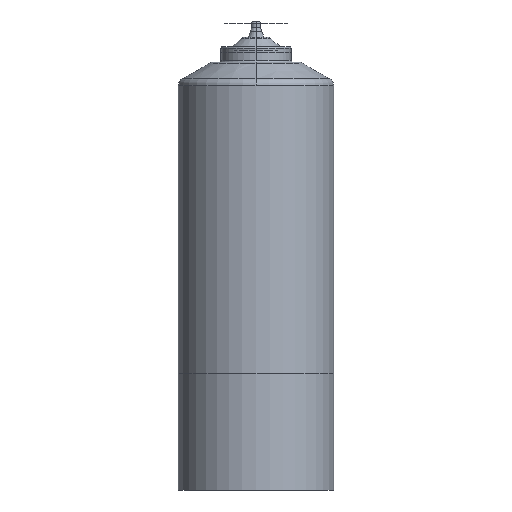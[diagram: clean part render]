
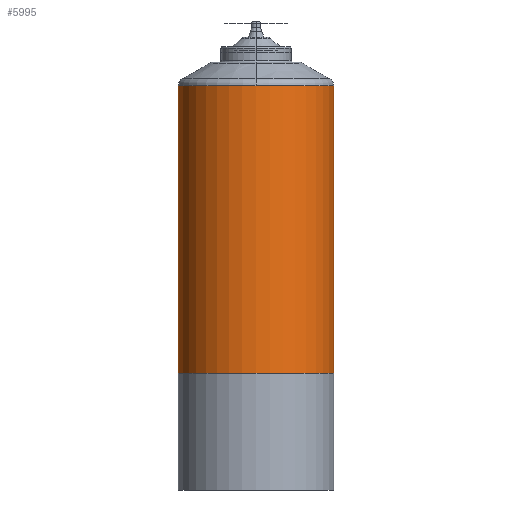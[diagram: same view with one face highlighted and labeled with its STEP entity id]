
A CAD part, left-side view. The second image highlights one B-rep face of the part: STEP entity #5995.
In plain terms, the highlighted cylindrical face has radius 10 mm (diameter 20 mm), a partial arc.
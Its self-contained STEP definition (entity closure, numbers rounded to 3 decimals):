
#815 = EDGE_LOOP ( 'NONE', ( #2444, #5077, #1756, #6427, #9294 ) ) ;
#1113 = VERTEX_POINT ( 'NONE', #2347 ) ;
#1438 = EDGE_CURVE ( 'NONE', #1113, #4813, #3640, .T. ) ;
#1519 = LINE ( 'NONE', #11518, #8603 ) ;
#1645 = DIRECTION ( 'NONE',  ( 0., 0., -1. ) ) ;
#1756 = ORIENTED_EDGE ( 'NONE', *, *, #11317, .T. ) ;
#1867 = AXIS2_PLACEMENT_3D ( 'NONE', #8234, #5432, #6383 ) ;
#2102 = DIRECTION ( 'NONE',  ( 0., 0., -1. ) ) ;
#2347 = CARTESIAN_POINT ( 'NONE',  ( 0., -10., 63.979 ) ) ;
#2410 = DIRECTION ( 'NONE',  ( 0., 0., -1. ) ) ;
#2411 = EDGE_CURVE ( 'NONE', #6690, #2897, #4623, .T. ) ;
#2422 = DIRECTION ( 'NONE',  ( 0., 0., -1. ) ) ;
#2444 = ORIENTED_EDGE ( 'NONE', *, *, #1438, .T. ) ;
#2498 = DIRECTION ( 'NONE',  ( 0., 0., -1. ) ) ;
#2562 = CARTESIAN_POINT ( 'NONE',  ( 0., 0., 63.979 ) ) ;
#2897 = VERTEX_POINT ( 'NONE', #3733 ) ;
#3031 = FACE_OUTER_BOUND ( 'NONE', #815, .T. ) ;
#3365 = AXIS2_PLACEMENT_3D ( 'NONE', #2562, #2410, #8896 ) ;
#3640 = CIRCLE ( 'NONE', #8444, 10. ) ;
#3733 = CARTESIAN_POINT ( 'NONE',  ( 0., 10., 27. ) ) ;
#3931 = CARTESIAN_POINT ( 'NONE',  ( 0., 0., 27. ) ) ;
#4387 = DIRECTION ( 'NONE',  ( -1., 0., 0. ) ) ;
#4623 = CIRCLE ( 'NONE', #8755, 10. ) ;
#4813 = VERTEX_POINT ( 'NONE', #5973 ) ;
#5077 = ORIENTED_EDGE ( 'NONE', *, *, #8633, .T. ) ;
#5085 = CIRCLE ( 'NONE', #3365, 10. ) ;
#5432 = DIRECTION ( 'NONE',  ( 0., 0., -1. ) ) ;
#5832 = CYLINDRICAL_SURFACE ( 'NONE', #1867, 10. ) ;
#5867 = CARTESIAN_POINT ( 'NONE',  ( 0., -10., 27. ) ) ;
#5973 = CARTESIAN_POINT ( 'NONE',  ( -10., 0., 63.979 ) ) ;
#5995 = ADVANCED_FACE ( 'NONE', ( #3031 ), #5832, .T. ) ;
#6379 = EDGE_CURVE ( 'NONE', #1113, #6690, #7405, .T. ) ;
#6383 = DIRECTION ( 'NONE',  ( 0., -1., 0. ) ) ;
#6427 = ORIENTED_EDGE ( 'NONE', *, *, #2411, .F. ) ;
#6690 = VERTEX_POINT ( 'NONE', #5867 ) ;
#6940 = VERTEX_POINT ( 'NONE', #9328 ) ;
#7405 = LINE ( 'NONE', #7849, #10942 ) ;
#7849 = CARTESIAN_POINT ( 'NONE',  ( 0., -10., 63. ) ) ;
#8108 = CARTESIAN_POINT ( 'NONE',  ( 0., 0., 63.979 ) ) ;
#8234 = CARTESIAN_POINT ( 'NONE',  ( 0., 0., 63. ) ) ;
#8444 = AXIS2_PLACEMENT_3D ( 'NONE', #8108, #1645, #4387 ) ;
#8603 = VECTOR ( 'NONE', #2498, 1000. ) ;
#8633 = EDGE_CURVE ( 'NONE', #4813, #6940, #5085, .T. ) ;
#8755 = AXIS2_PLACEMENT_3D ( 'NONE', #3931, #2102, #10965 ) ;
#8896 = DIRECTION ( 'NONE',  ( -1., 0., 0. ) ) ;
#9294 = ORIENTED_EDGE ( 'NONE', *, *, #6379, .F. ) ;
#9328 = CARTESIAN_POINT ( 'NONE',  ( 0., 10., 63.979 ) ) ;
#10942 = VECTOR ( 'NONE', #2422, 1000. ) ;
#10965 = DIRECTION ( 'NONE',  ( 0., -1., 0. ) ) ;
#11317 = EDGE_CURVE ( 'NONE', #6940, #2897, #1519, .T. ) ;
#11518 = CARTESIAN_POINT ( 'NONE',  ( 0., 10., 63. ) ) ;
